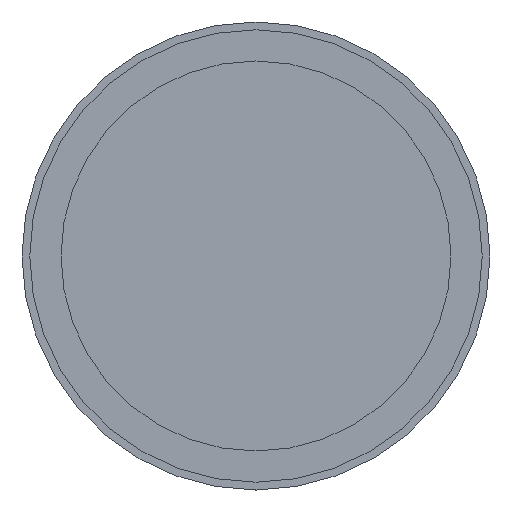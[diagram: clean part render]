
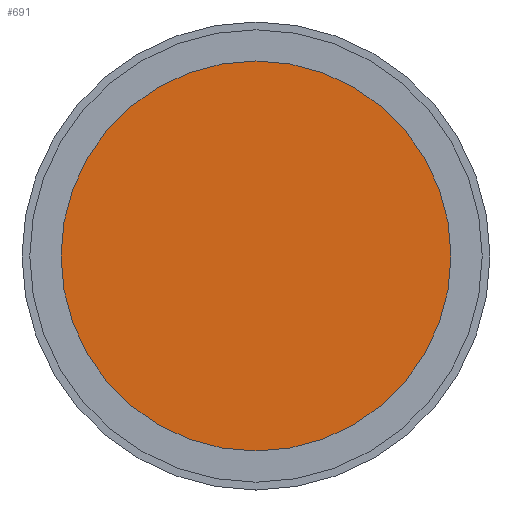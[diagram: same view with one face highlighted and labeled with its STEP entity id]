
A CAD part, front view. The second image highlights one B-rep face of the part: STEP entity #691.
In plain terms, the highlighted planar face has unit normal (0, -1, 0).
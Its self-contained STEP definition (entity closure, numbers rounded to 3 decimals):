
#147=FACE_OUTER_BOUND('',#198,.T.);
#198=EDGE_LOOP('',(#451));
#260=CIRCLE('',#745,25.);
#299=VERTEX_POINT('',#1047);
#358=EDGE_CURVE('',#299,#299,#260,.T.);
#451=ORIENTED_EDGE('',*,*,#358,.F.);
#617=PLANE('',#747);
#691=ADVANCED_FACE('',(#147),#617,.T.);
#745=AXIS2_PLACEMENT_3D('',#1048,#841,#842);
#747=AXIS2_PLACEMENT_3D('',#1051,#845,#846);
#841=DIRECTION('center_axis',(0.,1.,0.));
#842=DIRECTION('ref_axis',(-1.,0.,0.));
#845=DIRECTION('center_axis',(0.,-1.,0.));
#846=DIRECTION('ref_axis',(0.,0.,-1.));
#1047=CARTESIAN_POINT('',(25.,-84.5,0.));
#1048=CARTESIAN_POINT('Origin',(0.,-84.5,
0.));
#1051=CARTESIAN_POINT('Origin',(0.,-84.5,
0.));
